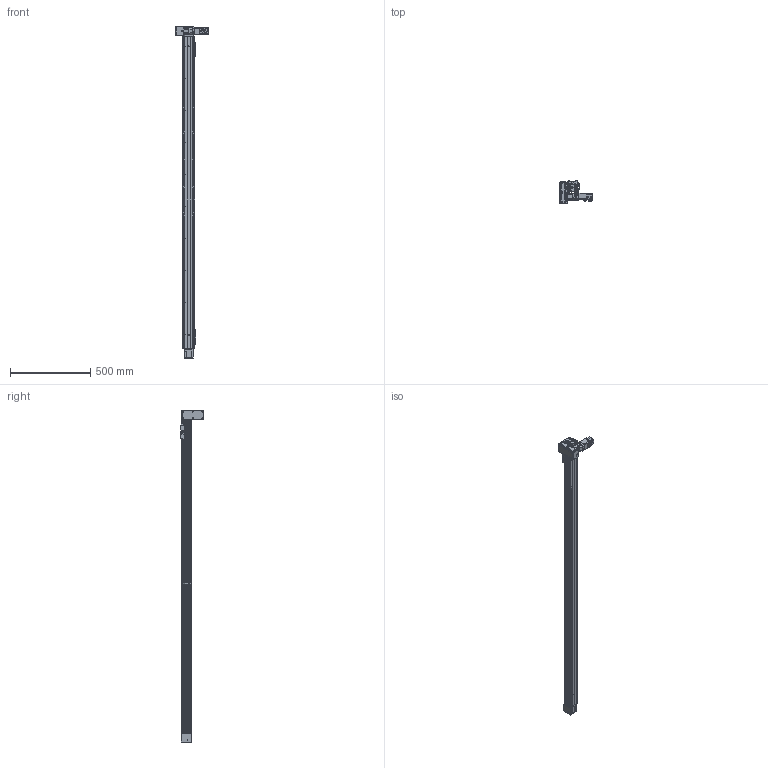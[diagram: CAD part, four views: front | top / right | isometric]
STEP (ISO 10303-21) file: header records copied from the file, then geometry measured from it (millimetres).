
FILE_DESCRIPTION(/* description */ (''),/* implementation_level */ '2;1');
FILE_NAME(/* name */ '\\192.168.0.160\disk1\HAN SHIN Master\B-설계부문\C-표준\B-2024년\BC02-표준도면\+로봇 개선표준도면\홈페이지 표준 도면\홈페이지 최종 작업 폴더\3D\HSB\HSB55\HSB55-DL1G-N-1800-R.stp',/* time_stamp */ '2025-06-19T20:23:56+09:00',/* author */ ('user'),/* organization */ (''),/* preprocessor_version */ 'ST-DEVELOPER v18.1',/* originating_system */ 'Autodesk Inventor 2022',/* authorisation */ '');
FILE_SCHEMA (('AUTOMOTIVE_DESIGN { 1 0 10303 214 3 1 1 }'));
Products named in the file (41): HSB55-DL1G-N-0500-R; HSB55 BASE; HSB55 TABLE; UPCOVER; HSB55 HOUSING (Connecting); HSB160 SHAFT-1; HSB55 FRONT HOUSIONG; HSB55 REAR SHAFT-1; HSB55 REAR SHAFT; HSB55 DOWN CLAMP; M4-25(렌치볼트); HSB55 HOUSING-R1; HSB55 TENSION PLATE; ISO 4032 - M4; HSB160 BEARING OVER; HSB55 UP CLAMP; HR45 SENSOR DOG; HR45 SENSOR RAIL; hsr_ftht_A-M6F_grease_nipple_joint; NIPPLE CAP(신규); SIDE COVER_대칭도; SIDE COVER; HR45 STOPPER; HSB55 END COVER; EC-6202ZZ; EC-6202ZZ Inner ring; EC-6202ZZ Outer ring; EC-6202ZZ St; EC-6202ZZ Ball; EC-6202ZZ B1; HSB55 ACRYL COVER-R1; HSB55 ACRYL COVER; EE_SX674A; PGX44-H-1_3; hg-kr13_; MOTOR PLATE-100W(MITSUBISHI); HR65-BELT COVER-COVER; HR65-BELT COVER-COVER3; HSB55 D MOTOR PLATE; HSB55 D BELT COVER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
Assembly tree (64 placements, depth 3):
  HSB55-DL1G-N-0500-R
    HSB55 BASE
    HSB55 TABLE
    UPCOVER
    HSB55 FRONT HOUSIONG  x2
    HSB55 HOUSING (Connecting)
    HSB160 SHAFT-1
    HSB55 REAR SHAFT-1
    #131909  x2
    HSB55 REAR SHAFT
    HSB55 DOWN CLAMP  x2
    HSB55 UP CLAMP  x2
    M4-25(렌치볼트)
    ISO 4032 - M4  x2
    HSB55 HOUSING-R1
    HSB55 TENSION PLATE  x2
    HSB160 BEARING OVER
    HR45 SENSOR DOG
    HR45 SENSOR RAIL  x2
    EE_SX674A  x3
    hsr_ftht_A-M6F_grease_nipple_joint
    NIPPLE CAP(신규)
    SIDE COVER_대칭도
    SIDE COVER
    HR45 STOPPER  x2
    HSB55 END COVER
    EC-6202ZZ  x2
      EC-6202ZZ Inner ring
      EC-6202ZZ Outer ring
      EC-6202ZZ B1
      EC-6202ZZ St
      EC-6202ZZ Ball
    HSB55 ACRYL COVER  x4
    HSB55 ACRYL COVER-R1
    PGX44-H-1_3
    hg-kr13_
    MOTOR PLATE-100W(MITSUBISHI)
    HR65-BELT COVER-COVER
    HR65-BELT COVER-COVER3
    HSB55 D MOTOR PLATE
    HSB55 D BELT COVER
    HR65-BELT COVER-COVER2  x2
Bounding box: 201.4 x 142.7 x 2070 mm (x, y, z)
Volume: 3398466 mm3; surface area: 1550988.8 mm2
Topology: 90 solids, 90 shells, 5236 faces, 14370 edges, 9407 vertices
Faces by surface type: plane 3620, cylinder 1250, cone 287, torus 35, sphere 22, bspline 22
Full cylindrical faces by diameter (mm): 1 x2, 2 x3, 2.013 x4, 2.459 x102, 2.5 x5, 3 x3, 3.242 x76, 3.3 x9, 3.4 x22, 3.5 x75, 4 x11, 4.134 x20, 4.2 x4, 4.5 x45, 4.917 x2, 5 x8, 5.5 x1, 5.6 x3, 5.9 x2, 6 x46, 6.5 x4, 7 x5, 7.5 x4, 8 x18, 8.2 x1, 9 x2, 9.5 x2, 10 x1, 11.5 x2, 12 x6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
Entity records: 131863 total; most frequent: CARTESIAN_POINT 26725, ORIENTED_EDGE 21590, DIRECTION 21204, EDGE_CURVE 10795, LINE 7630, VECTOR 7630, VERTEX_POINT 7107, AXIS2_PLACEMENT_3D 6787
